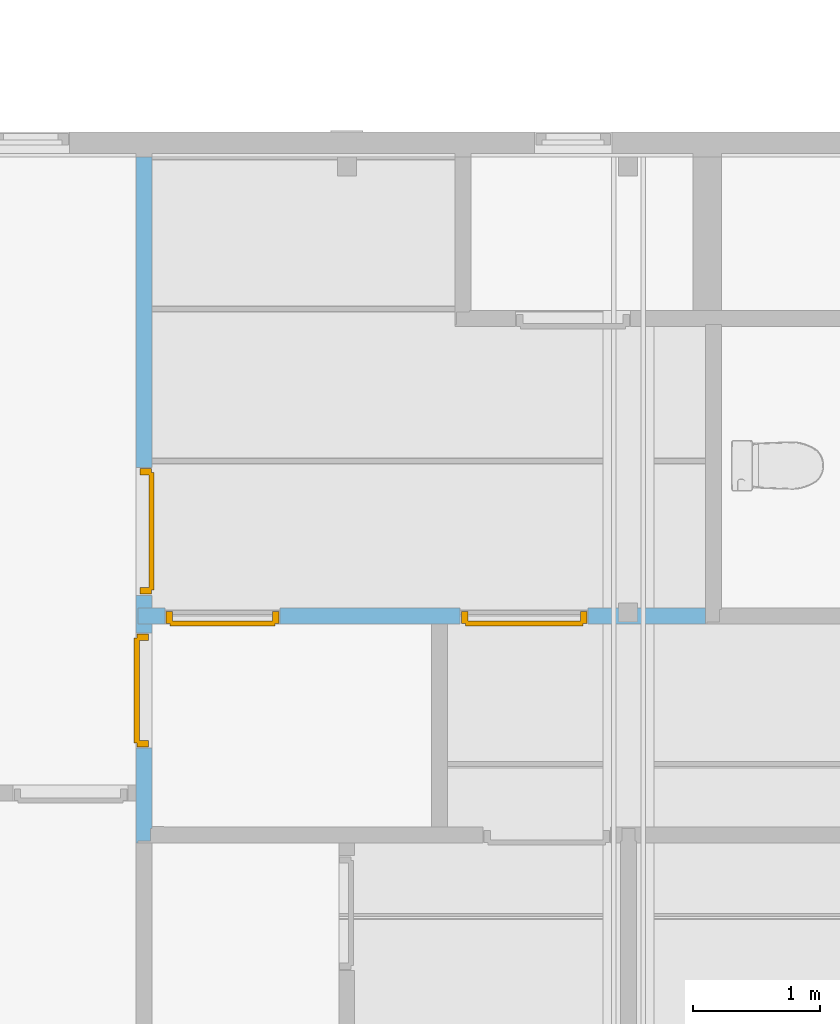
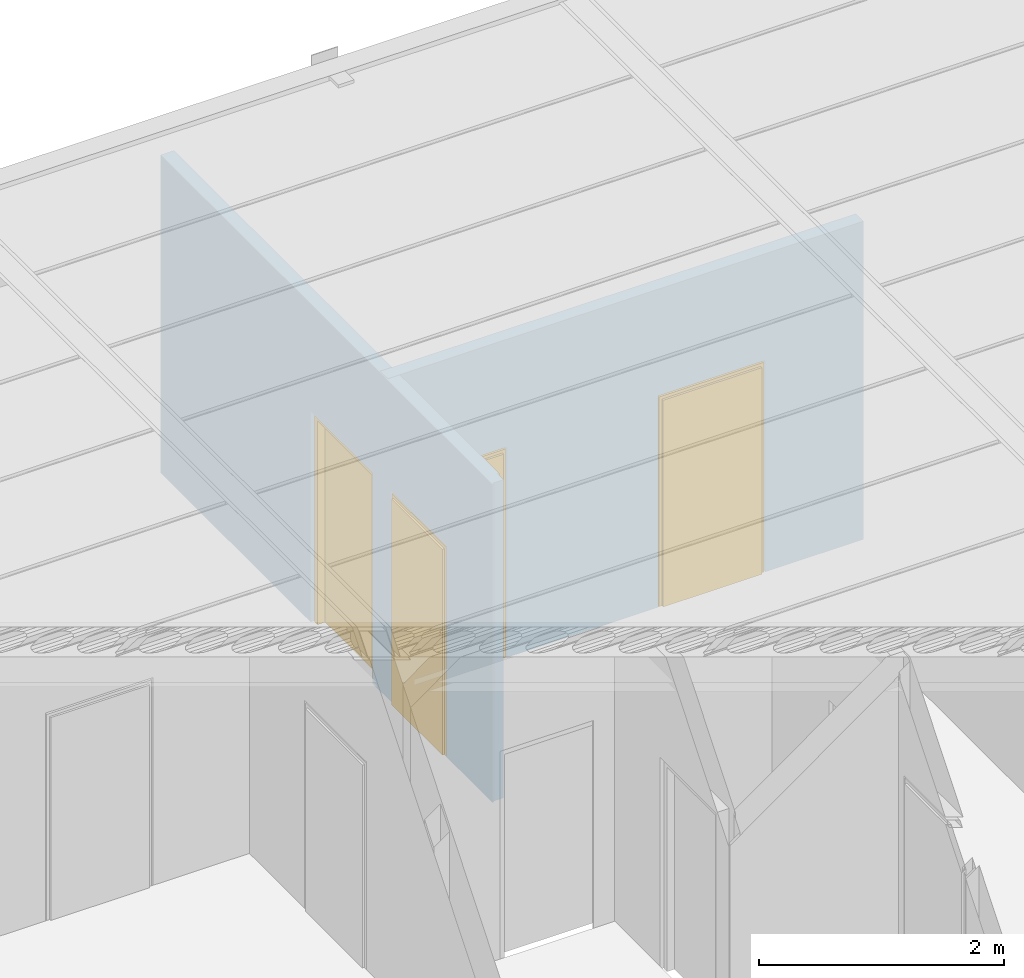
# One storey, part 31 of 45: 4 doors, 4 openings, plus 2 elements that do not belong to this part.
"""IFC2X3 building model written with IfcOpenShell, lengths in millimetres."""

from ifc_helpers import new_model, entity, si_unit, converted_unit, frame, frame_2d, origin, origin_with_axes, place, context, subcontext, project, spatial, polyline, rectangle, outline, extrude, faceted_brep, material, layer, layer_set, layer_usage, type_object, element, fill, save


model = new_model("IFC2X3")

# Units and contexts
model_context = context("Model", 3, precision=1e-05, world=origin())
plan_context = context("Plan", 3, precision=1e-05, world=origin())
body_context = subcontext(model_context, "Body", "Model", "MODEL_VIEW")
ifc_project = project(units=[si_unit("LENGTHUNIT", "METRE", prefix="MILLI"), converted_unit("PLANEANGLEUNIT", "DEGREE", entity("IfcPlaneAngleMeasure", 0.0174532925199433), si_unit("PLANEANGLEUNIT", "RADIAN"), dimensions=[0, 0, 0, 0, 0, 0, 0]), si_unit("AREAUNIT", "SQUARE_METRE"), si_unit("VOLUMEUNIT", "CUBIC_METRE")], contexts=[model_context, plan_context])

# Building, storey
building_placement = place(None, origin())
building = spatial("IfcBuilding", under=ifc_project, at=building_placement, Name="HEKF Administrasjonbygg", CompositionType="ELEMENT")
storey_placement = place(building_placement, frame((0.0, 0.0, 6500.0), z_axis=(0.0, 0.0, 1.0), x_axis=(1.0, 0.0, 0.0)))
storey = spatial("IfcBuildingStorey", under=building, at=storey_placement, Name="Plan 1", CompositionType="ELEMENT", Elevation=6500.0)

# Wall, openings, doors
ifc_material_1 = material(Name="gips")
ifc_layer_1 = layer(ifc_material_1, 13.00000000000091)
ifc_material_2 = material(Name="riegel stål 100")
ifc_layer_2 = layer(ifc_material_2, 100.0)
ifc_material_3 = material(Name="gips")
ifc_layer_3 = layer(ifc_material_3, 13.0)
ifc_layer_set_1 = layer_set([ifc_layer_1, ifc_layer_2, ifc_layer_3])
ifc_layer_usage_1 = layer_usage(ifc_layer_set_1, "AXIS2", "POSITIVE", 0.0)
wall_1_placement = place(storey_placement, frame((18350.0, -3687.0, 0.0), z_axis=(0.0, 0.0, 1.0), x_axis=(1.0, -6.397200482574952e-17, 0.0)))
wall_1 = element("IfcWallStandardCase", 1, at=wall_1_placement, inside=storey, material=ifc_layer_usage_1, context=body_context, shape_type="SweptSolid", body=[
    extrude(outline(polyline([(4482.536806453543, -1.679904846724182e-13), (4482.536806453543, 125.9999999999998), (-8.060472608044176e-15, 125.9999999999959), (0.0, 0.0), (4482.536806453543, -1.679904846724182e-13)])), origin_with_axes(), (0.0, 0.0, 1.0), 3170.0),
])
opening_1_placement = place(wall_1_placement, frame((2546.205884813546, 0.0, 0.0), z_axis=(0.0, 1.0, 0.0), x_axis=(0.0, 0.0, 1.0)))
opening_1 = element("IfcOpeningElement", 2, at=opening_1_placement, cuts=wall_1, Name="Door opening", ObjectType="Opening", context=body_context, shape_type="SweptSolid", body=[
    extrude(rectangle(XDim=2110.0, YDim=1010.0, at=frame_2d((1055.0, 505.0), x_axis=(1.0, 0.0))), origin_with_axes(), (0.0, 0.0, 1.0), 125.9999999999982),
])
opening_2_placement = place(wall_1_placement, frame((213.0, 0.0, 0.0), z_axis=(0.0, 1.0, 0.0), x_axis=(0.0, 0.0, 1.0)))
opening_2 = element("IfcOpeningElement", 3, at=opening_2_placement, cuts=wall_1, Name="D015", ObjectType="Opening", context=body_context, shape_type="SweptSolid", body=[
    extrude(rectangle(XDim=2100.0, YDim=910.0, at=frame_2d((1050.0, 455.0), x_axis=(1.0, 0.0))), origin_with_axes(), (0.0, 0.0, 1.0), 125.9999999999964),
])
ifc_material_4 = material()
door_style_1 = type_object("IfcDoorStyle", Name="D023", ConstructionType="NOTDEFINED", OperationType="USERDEFINED", ParameterTakesPrecedence=False, Sizeable=False)
door_1_placement = place(opening_1_placement, frame((0.0, 0.0, 0.0), z_axis=(1.0, 0.0, 0.0), x_axis=(0.0, 1.0, 0.0)))
door_1 = element("IfcDoor", 4, at=door_1_placement, inside=storey, type_object=door_style_1, material=ifc_material_4, Name="D023", OverallHeight=2110.0, OverallWidth=1010.0, context=body_context, shape_type="Brep", body=[
    faceted_brep([(9.999999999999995, 3.999999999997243, 2090.0), (59.99999999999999, 3.999999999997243, 2090.0), (59.99999999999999, 3.999999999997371, -2.816687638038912e-15), (9.999999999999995, 3.999999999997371, -2.816687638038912e-15), (10.0, 95.99999999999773, 2.816687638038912e-15), (60.0, 95.99999999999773, 2.816687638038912e-15), (60.0, 95.9999999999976, 2090.0), (10.0, 95.9999999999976, 2090.0), (9.999999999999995, 3.999999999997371, -2.816687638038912e-15), (10.0, 95.99999999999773, 2.816687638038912e-15), (10.0, 95.9999999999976, 2090.0), (9.999999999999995, 3.999999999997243, 2090.0), (59.99999999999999, 3.999999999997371, -2.816687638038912e-15), (60.0, 95.99999999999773, 2.816687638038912e-15), (10.0, 95.99999999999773, 2.816687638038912e-15), (9.999999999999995, 3.999999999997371, -2.816687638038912e-15), (59.99999999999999, 3.999999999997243, 2090.0), (60.0, 95.9999999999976, 2090.0), (60.0, 95.99999999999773, 2.816687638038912e-15), (59.99999999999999, 3.999999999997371, -2.816687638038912e-15), (9.999999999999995, 3.999999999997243, 2090.0), (10.0, 95.9999999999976, 2090.0), (60.0, 95.9999999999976, 2090.0), (59.99999999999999, 3.999999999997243, 2090.0)], [[[0, 1, 2, 3]], [[4, 5, 6, 7]], [[8, 9, 10, 11]], [[12, 13, 14, 15]], [[16, 17, 18, 19]], [[20, 21, 22, 23]]], orient=[[False], [False], [False], [False], [False], [False]]),
    faceted_brep([(950.0, 3.999999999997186, 2090.0), (1000.0, 3.999999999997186, 2090.0), (1000.0, 3.999999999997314, -2.816687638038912e-15), (950.0, 3.999999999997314, -2.816687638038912e-15), (950.0, 95.99999999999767, 2.816687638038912e-15), (1000.0, 95.99999999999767, 2.816687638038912e-15), (1000.0, 95.99999999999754, 2090.0), (950.0, 95.99999999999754, 2090.0), (950.0, 3.999999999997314, -2.816687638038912e-15), (950.0, 95.99999999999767, 2.816687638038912e-15), (950.0, 95.99999999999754, 2090.0), (950.0, 3.999999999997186, 2090.0), (1000.0, 3.999999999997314, -2.816687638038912e-15), (1000.0, 95.99999999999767, 2.816687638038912e-15), (950.0, 95.99999999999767, 2.816687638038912e-15), (950.0, 3.999999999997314, -2.816687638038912e-15), (1000.0, 3.999999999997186, 2090.0), (1000.0, 95.99999999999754, 2090.0), (1000.0, 95.99999999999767, 2.816687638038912e-15), (1000.0, 3.999999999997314, -2.816687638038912e-15), (950.0, 3.999999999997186, 2090.0), (950.0, 95.99999999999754, 2090.0), (1000.0, 95.99999999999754, 2090.0), (1000.0, 3.999999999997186, 2090.0)], [[[0, 1, 2, 3]], [[4, 5, 6, 7]], [[8, 9, 10, 11]], [[12, 13, 14, 15]], [[16, 17, 18, 19]], [[20, 21, 22, 23]]], orient=[[False], [False], [False], [False], [False], [False]]),
    faceted_brep([(59.99999999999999, 3.999999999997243, 2090.0), (949.9999999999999, 3.999999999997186, 2090.0), (949.9999999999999, 3.999999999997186, 2040.0), (59.99999999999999, 3.999999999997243, 2040.0), (60.0, 95.9999999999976, 2040.0), (949.9999999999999, 95.99999999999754, 2040.0), (949.9999999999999, 95.99999999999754, 2090.0), (60.0, 95.9999999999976, 2090.0), (59.99999999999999, 3.999999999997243, 2040.0), (60.0, 95.9999999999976, 2040.0), (60.0, 95.9999999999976, 2090.0), (59.99999999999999, 3.999999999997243, 2090.0), (949.9999999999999, 3.999999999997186, 2040.0), (949.9999999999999, 95.99999999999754, 2040.0), (60.0, 95.9999999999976, 2040.0), (59.99999999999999, 3.999999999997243, 2040.0), (949.9999999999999, 3.999999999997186, 2090.0), (949.9999999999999, 95.99999999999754, 2090.0), (949.9999999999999, 95.99999999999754, 2040.0), (949.9999999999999, 3.999999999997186, 2040.0), (59.99999999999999, 3.999999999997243, 2090.0), (60.0, 95.9999999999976, 2090.0), (949.9999999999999, 95.99999999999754, 2090.0), (949.9999999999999, 3.999999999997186, 2090.0)], [[[0, 1, 2, 3]], [[4, 5, 6, 7]], [[8, 9, 10, 11]], [[12, 13, 14, 15]], [[16, 17, 18, 19]], [[20, 21, 22, 23]]], orient=[[False], [False], [False], [False], [False], [False]]),
    faceted_brep([(40.0, -16.00000000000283, 2060.0), (969.9999999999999, -16.00000000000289, 2060.0), (969.9999999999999, -16.00000000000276, -4.041334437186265e-15), (40.0, -16.0000000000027, -4.041334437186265e-15), (40.0, 23.99999999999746, -1.592040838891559e-15), (969.9999999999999, 23.9999999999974, -1.592040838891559e-15), (969.9999999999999, 23.99999999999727, 2060.0), (40.0, 23.99999999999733, 2060.0), (40.0, -16.0000000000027, -4.041334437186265e-15), (40.0, 23.99999999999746, -1.592040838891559e-15), (40.0, 23.99999999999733, 2060.0), (40.0, -16.00000000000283, 2060.0), (969.9999999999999, -16.00000000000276, -4.041334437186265e-15), (969.9999999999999, 23.9999999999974, -1.592040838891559e-15), (40.0, 23.99999999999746, -1.592040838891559e-15), (40.0, -16.0000000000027, -4.041334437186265e-15), (969.9999999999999, -16.00000000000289, 2060.0), (969.9999999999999, 23.99999999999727, 2060.0), (969.9999999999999, 23.9999999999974, -1.592040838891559e-15), (969.9999999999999, -16.00000000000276, -4.041334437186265e-15), (40.0, -16.00000000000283, 2060.0), (40.0, 23.99999999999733, 2060.0), (969.9999999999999, 23.99999999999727, 2060.0), (969.9999999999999, -16.00000000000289, 2060.0)], [[[0, 1, 2, 3]], [[4, 5, 6, 7]], [[8, 9, 10, 11]], [[12, 13, 14, 15]], [[16, 17, 18, 19]], [[20, 21, 22, 23]]], orient=[[False], [False], [False], [False], [False], [False]]),
])
fill(opening_1, door_1)
ifc_material_5 = material()
door_style_2 = type_object("IfcDoorStyle", Name="D022", ConstructionType="NOTDEFINED", OperationType="USERDEFINED", ParameterTakesPrecedence=False, Sizeable=False)
door_2_placement = place(opening_2_placement, frame((0.0, 0.0, 0.0), z_axis=(1.0, 0.0, 0.0), x_axis=(0.0, 1.0, 0.0)))
door_2 = element("IfcDoor", 5, at=door_2_placement, inside=storey, type_object=door_style_2, material=ifc_material_5, Name="D022", OverallHeight=2100.0, OverallWidth=910.0, context=body_context, shape_type="Brep", body=[
    faceted_brep([(9.999999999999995, 3.999999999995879, 2080.0), (59.99999999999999, 3.999999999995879, 2080.0), (59.99999999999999, 3.999999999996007, -2.816687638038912e-15), (9.999999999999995, 3.999999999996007, -2.816687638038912e-15), (10.0, 95.99999999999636, 2.816687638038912e-15), (60.0, 95.99999999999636, 2.816687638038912e-15), (60.0, 95.99999999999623, 2080.0), (10.0, 95.99999999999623, 2080.0), (9.999999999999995, 3.999999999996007, -2.816687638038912e-15), (10.0, 95.99999999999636, 2.816687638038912e-15), (10.0, 95.99999999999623, 2080.0), (9.999999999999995, 3.999999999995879, 2080.0), (59.99999999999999, 3.999999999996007, -2.816687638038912e-15), (60.0, 95.99999999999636, 2.816687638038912e-15), (10.0, 95.99999999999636, 2.816687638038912e-15), (9.999999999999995, 3.999999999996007, -2.816687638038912e-15), (59.99999999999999, 3.999999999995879, 2080.0), (60.0, 95.99999999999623, 2080.0), (60.0, 95.99999999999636, 2.816687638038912e-15), (59.99999999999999, 3.999999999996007, -2.816687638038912e-15), (9.999999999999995, 3.999999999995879, 2080.0), (10.0, 95.99999999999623, 2080.0), (60.0, 95.99999999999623, 2080.0), (59.99999999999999, 3.999999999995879, 2080.0)], [[[0, 1, 2, 3]], [[4, 5, 6, 7]], [[8, 9, 10, 11]], [[12, 13, 14, 15]], [[16, 17, 18, 19]], [[20, 21, 22, 23]]], orient=[[False], [False], [False], [False], [False], [False]]),
    faceted_brep([(850.0, 3.999999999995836, 2080.0), (900.0, 3.999999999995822, 2080.0), (900.0, 3.99999999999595, -2.816687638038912e-15), (850.0, 3.999999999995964, -2.816687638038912e-15), (850.0, 95.9999999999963, 2.816687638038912e-15), (900.0, 95.9999999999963, 2.816687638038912e-15), (900.0, 95.99999999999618, 2080.0), (850.0, 95.99999999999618, 2080.0), (850.0, 3.999999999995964, -2.816687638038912e-15), (850.0, 95.9999999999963, 2.816687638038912e-15), (850.0, 95.99999999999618, 2080.0), (850.0, 3.999999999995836, 2080.0), (900.0, 3.99999999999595, -2.816687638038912e-15), (900.0, 95.9999999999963, 2.816687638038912e-15), (850.0, 95.9999999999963, 2.816687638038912e-15), (850.0, 3.999999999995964, -2.816687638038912e-15), (900.0, 3.999999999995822, 2080.0), (900.0, 95.99999999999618, 2080.0), (900.0, 95.9999999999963, 2.816687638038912e-15), (900.0, 3.99999999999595, -2.816687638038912e-15), (850.0, 3.999999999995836, 2080.0), (850.0, 95.99999999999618, 2080.0), (900.0, 95.99999999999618, 2080.0), (900.0, 3.999999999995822, 2080.0)], [[[0, 1, 2, 3]], [[4, 5, 6, 7]], [[8, 9, 10, 11]], [[12, 13, 14, 15]], [[16, 17, 18, 19]], [[20, 21, 22, 23]]], orient=[[False], [False], [False], [False], [False], [False]]),
    faceted_brep([(59.99999999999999, 3.999999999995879, 2080.0), (849.9999999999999, 3.999999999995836, 2080.0), (849.9999999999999, 3.999999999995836, 2030.0), (59.99999999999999, 3.999999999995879, 2030.0), (60.0, 95.99999999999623, 2030.0), (849.9999999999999, 95.99999999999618, 2030.0), (849.9999999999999, 95.99999999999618, 2080.000000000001), (60.0, 95.99999999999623, 2080.000000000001), (59.99999999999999, 3.999999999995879, 2030.0), (60.0, 95.99999999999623, 2030.0), (60.0, 95.99999999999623, 2080.000000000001), (59.99999999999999, 3.999999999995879, 2080.0), (849.9999999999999, 3.999999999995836, 2030.0), (849.9999999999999, 95.99999999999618, 2030.0), (60.0, 95.99999999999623, 2030.0), (59.99999999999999, 3.999999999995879, 2030.0), (849.9999999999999, 3.999999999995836, 2080.0), (849.9999999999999, 95.99999999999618, 2080.000000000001), (849.9999999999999, 95.99999999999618, 2030.0), (849.9999999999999, 3.999999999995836, 2030.0), (59.99999999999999, 3.999999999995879, 2080.0), (60.0, 95.99999999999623, 2080.000000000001), (849.9999999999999, 95.99999999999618, 2080.000000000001), (849.9999999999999, 3.999999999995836, 2080.0)], [[[0, 1, 2, 3]], [[4, 5, 6, 7]], [[8, 9, 10, 11]], [[12, 13, 14, 15]], [[16, 17, 18, 19]], [[20, 21, 22, 23]]], orient=[[False], [False], [False], [False], [False], [False]]),
    faceted_brep([(40.0, -16.00000000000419, 2050.000000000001), (870.0, -16.00000000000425, 2050.000000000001), (870.0, -16.00000000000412, -4.041334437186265e-15), (40.0, -16.00000000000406, -4.041334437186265e-15), (40.0, 23.99999999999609, -1.592040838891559e-15), (870.0, 23.99999999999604, -1.592040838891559e-15), (870.0, 23.99999999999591, 2050.000000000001), (40.0, 23.99999999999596, 2050.000000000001), (40.0, -16.00000000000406, -4.041334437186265e-15), (40.0, 23.99999999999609, -1.592040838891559e-15), (40.0, 23.99999999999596, 2050.000000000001), (40.0, -16.00000000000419, 2050.000000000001), (870.0, -16.00000000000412, -4.041334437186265e-15), (870.0, 23.99999999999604, -1.592040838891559e-15), (40.0, 23.99999999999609, -1.592040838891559e-15), (40.0, -16.00000000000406, -4.041334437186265e-15), (870.0, -16.00000000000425, 2050.000000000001), (870.0, 23.99999999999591, 2050.000000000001), (870.0, 23.99999999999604, -1.592040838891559e-15), (870.0, -16.00000000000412, -4.041334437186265e-15), (40.0, -16.00000000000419, 2050.000000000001), (40.0, 23.99999999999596, 2050.000000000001), (870.0, 23.99999999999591, 2050.000000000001), (870.0, -16.00000000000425, 2050.000000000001)], [[[0, 1, 2, 3]], [[4, 5, 6, 7]], [[8, 9, 10, 11]], [[12, 13, 14, 15]], [[16, 17, 18, 19]], [[20, 21, 22, 23]]], orient=[[False], [False], [False], [False], [False], [False]]),
])
fill(opening_2, door_2)

ifc_material_6 = material(Name="gips")
ifc_layer_4 = layer(ifc_material_6, 13.0)
ifc_material_7 = material(Name="riegel stål 100")
ifc_layer_5 = layer(ifc_material_7, 100.0)
ifc_material_8 = material(Name="gips")
ifc_layer_6 = layer(ifc_material_8, 13.0)
ifc_layer_set_2 = layer_set([ifc_layer_4, ifc_layer_5, ifc_layer_6])
ifc_layer_usage_2 = layer_usage(ifc_layer_set_2, "AXIS2", "POSITIVE", -13.0)
wall_2_placement = place(storey_placement, frame((18463.0, -5302.674801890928, 0.0), z_axis=(0.0, 0.0, 1.0), x_axis=(0.0, 1.0, 0.0)))
wall_2 = element("IfcWallStandardCase", 6, at=wall_2_placement, inside=storey, material=ifc_layer_usage_2, context=body_context, shape_type="SweptSolid", body=[
    extrude(outline(polyline([(-99.99829331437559, 13.0), (0.007702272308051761, 13.0), (0.0, 0.0), (1615.674801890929, 0.0), (1615.674801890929, 113.0), (1741.674801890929, 113.0), (1741.674801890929, 0.0), (5302.674801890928, 0.0), (5302.674801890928, 126.0), (-114.3251981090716, 126.0), (-114.3251981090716, 113.0), (-99.9454851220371, 113.0), (-99.99829331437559, 13.0)])), origin_with_axes(), (0.0, 0.0, 1.0), 3170.0),
])
opening_3_placement = place(wall_2_placement, frame((634.8975306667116, 0.0, 0.0), z_axis=(0.0, 1.0, 0.0), x_axis=(0.0, 0.0, 1.0)))
opening_3 = element("IfcOpeningElement", 7, at=opening_3_placement, cuts=wall_2, Name="D020", ObjectType="Opening", context=body_context, shape_type="SweptSolid", body=[
    extrude(rectangle(XDim=2100.0, YDim=910.0, at=frame_2d((1050.0, 455.0), x_axis=(1.0, 0.0))), origin_with_axes(), (0.0, 0.0, 1.0), 126.0),
])
opening_4_placement = place(wall_2_placement, frame((1841.674801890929, 0.0, 0.0), z_axis=(0.0, 1.0, 0.0), x_axis=(0.0, 0.0, 1.0)))
opening_4 = element("IfcOpeningElement", 8, at=opening_4_placement, cuts=wall_2, Name="Door opening", ObjectType="Opening", context=body_context, shape_type="SweptSolid", body=[
    extrude(rectangle(XDim=2100.0, YDim=1010.0, at=frame_2d((1050.0, 505.0), x_axis=(1.0, 0.0))), origin_with_axes(), (0.0, 0.0, 1.0), 126.0),
])
ifc_material_9 = material()
door_style_3 = type_object("IfcDoorStyle", Name="D020", ConstructionType="NOTDEFINED", OperationType="USERDEFINED", ParameterTakesPrecedence=False, Sizeable=False)
door_3_placement = place(opening_3_placement, frame((0.0, 0.0, 0.0), z_axis=(1.0, 0.0, 0.0), x_axis=(0.0, 1.0, 0.0)))
door_3 = element("IfcDoor", 9, at=door_3_placement, inside=storey, type_object=door_style_3, material=ifc_material_9, Name="D020", OverallHeight=2100.0, OverallWidth=910.0, context=body_context, shape_type="Brep", body=[
    faceted_brep([(900.0, 122.0000000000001, 2080.0), (850.0, 122.0000000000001, 2080.0), (850.0, 122.0, -2.816687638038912e-15), (900.0, 122.0, -2.816687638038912e-15), (900.0, 30.0, 2.816687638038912e-15), (850.0, 30.0, 2.816687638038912e-15), (850.0, 30.00000000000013, 2080.0), (900.0, 30.00000000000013, 2080.0), (900.0, 122.0, -2.816687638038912e-15), (900.0, 30.0, 2.816687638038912e-15), (900.0, 30.00000000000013, 2080.0), (900.0, 122.0000000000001, 2080.0), (850.0, 122.0, -2.816687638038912e-15), (850.0, 30.0, 2.816687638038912e-15), (900.0, 30.0, 2.816687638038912e-15), (900.0, 122.0, -2.816687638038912e-15), (850.0, 122.0000000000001, 2080.0), (850.0, 30.00000000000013, 2080.0), (850.0, 30.0, 2.816687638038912e-15), (850.0, 122.0, -2.816687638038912e-15), (900.0, 122.0000000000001, 2080.0), (900.0, 30.00000000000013, 2080.0), (850.0, 30.00000000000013, 2080.0), (850.0, 122.0000000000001, 2080.0)], [[[0, 1, 2, 3]], [[4, 5, 6, 7]], [[8, 9, 10, 11]], [[12, 13, 14, 15]], [[16, 17, 18, 19]], [[20, 21, 22, 23]]], orient=[[False], [False], [False], [False], [False], [False]]),
    faceted_brep([(60.0, 122.0000000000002, 2080.0), (10.0, 122.0000000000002, 2080.0), (10.0, 122.0000000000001, -2.816687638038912e-15), (60.0, 122.0000000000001, -2.816687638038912e-15), (60.0, 30.00000000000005, 2.816687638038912e-15), (10.0, 30.00000000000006, 2.816687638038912e-15), (10.0, 30.00000000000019, 2080.0), (60.0, 30.00000000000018, 2080.0), (60.0, 122.0000000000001, -2.816687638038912e-15), (60.0, 30.00000000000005, 2.816687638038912e-15), (60.0, 30.00000000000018, 2080.0), (60.0, 122.0000000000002, 2080.0), (10.0, 122.0000000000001, -2.816687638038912e-15), (10.0, 30.00000000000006, 2.816687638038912e-15), (60.0, 30.00000000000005, 2.816687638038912e-15), (60.0, 122.0000000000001, -2.816687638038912e-15), (10.0, 122.0000000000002, 2080.0), (10.0, 30.00000000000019, 2080.0), (10.0, 30.00000000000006, 2.816687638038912e-15), (10.0, 122.0000000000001, -2.816687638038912e-15), (60.0, 122.0000000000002, 2080.0), (60.0, 30.00000000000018, 2080.0), (10.0, 30.00000000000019, 2080.0), (10.0, 122.0000000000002, 2080.0)], [[[0, 1, 2, 3]], [[4, 5, 6, 7]], [[8, 9, 10, 11]], [[12, 13, 14, 15]], [[16, 17, 18, 19]], [[20, 21, 22, 23]]], orient=[[False], [False], [False], [False], [False], [False]]),
    faceted_brep([(850.0, 122.0000000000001, 2080.0), (60.00000000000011, 122.0000000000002, 2080.0), (60.00000000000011, 122.0000000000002, 2030.0), (850.0, 122.0000000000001, 2030.0), (850.0, 30.00000000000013, 2030.0), (60.00000000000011, 30.00000000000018, 2030.0), (60.00000000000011, 30.00000000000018, 2080.000000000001), (850.0, 30.00000000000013, 2080.000000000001), (850.0, 122.0000000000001, 2030.0), (850.0, 30.00000000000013, 2030.0), (850.0, 30.00000000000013, 2080.000000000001), (850.0, 122.0000000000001, 2080.0), (60.00000000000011, 122.0000000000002, 2030.0), (60.00000000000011, 30.00000000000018, 2030.0), (850.0, 30.00000000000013, 2030.0), (850.0, 122.0000000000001, 2030.0), (60.00000000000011, 122.0000000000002, 2080.0), (60.00000000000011, 30.00000000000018, 2080.000000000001), (60.00000000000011, 30.00000000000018, 2030.0), (60.00000000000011, 122.0000000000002, 2030.0), (850.0, 122.0000000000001, 2080.0), (850.0, 30.00000000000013, 2080.000000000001), (60.00000000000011, 30.00000000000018, 2080.000000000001), (60.00000000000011, 122.0000000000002, 2080.0)], [[[0, 1, 2, 3]], [[4, 5, 6, 7]], [[8, 9, 10, 11]], [[12, 13, 14, 15]], [[16, 17, 18, 19]], [[20, 21, 22, 23]]], orient=[[False], [False], [False], [False], [False], [False]]),
    faceted_brep([(870.0, 142.0000000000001, 2050.000000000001), (40.0, 142.0000000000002, 2050.000000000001), (40.0, 142.0000000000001, -4.041334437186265e-15), (870.0, 142.0, -4.041334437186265e-15), (870.0, 102.0, -1.592040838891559e-15), (40.0, 102.0000000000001, -1.592040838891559e-15), (40.0, 102.0000000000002, 2050.000000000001), (870.0, 102.0000000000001, 2050.000000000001), (870.0, 142.0, -4.041334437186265e-15), (870.0, 102.0, -1.592040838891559e-15), (870.0, 102.0000000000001, 2050.000000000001), (870.0, 142.0000000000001, 2050.000000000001), (40.0, 142.0000000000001, -4.041334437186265e-15), (40.0, 102.0000000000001, -1.592040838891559e-15), (870.0, 102.0, -1.592040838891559e-15), (870.0, 142.0, -4.041334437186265e-15), (40.0, 142.0000000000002, 2050.000000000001), (40.0, 102.0000000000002, 2050.000000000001), (40.0, 102.0000000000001, -1.592040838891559e-15), (40.0, 142.0000000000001, -4.041334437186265e-15), (870.0, 142.0000000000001, 2050.000000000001), (870.0, 102.0000000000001, 2050.000000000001), (40.0, 102.0000000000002, 2050.000000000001), (40.0, 142.0000000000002, 2050.000000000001)], [[[0, 1, 2, 3]], [[4, 5, 6, 7]], [[8, 9, 10, 11]], [[12, 13, 14, 15]], [[16, 17, 18, 19]], [[20, 21, 22, 23]]], orient=[[False], [False], [False], [False], [False], [False]]),
])
fill(opening_3, door_3)
ifc_material_10 = material()
door_style_4 = type_object("IfcDoorStyle", Name="D021", ConstructionType="NOTDEFINED", OperationType="USERDEFINED", ParameterTakesPrecedence=False, Sizeable=False)
door_4_placement = place(opening_4_placement, frame((0.0, 0.0, 0.0), z_axis=(1.0, 0.0, 0.0), x_axis=(0.0, 1.0, 0.0)))
door_4 = element("IfcDoor", 10, at=door_4_placement, inside=storey, type_object=door_style_4, material=ifc_material_10, Name="D021", OverallHeight=2100.0, OverallWidth=1010.0, context=body_context, shape_type="Brep", body=[
    faceted_brep([(9.999999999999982, 3.999999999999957, 2080.0), (59.99999999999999, 3.999999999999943, 2080.0), (59.99999999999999, 4.000000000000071, -2.816687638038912e-15), (9.999999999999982, 4.000000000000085, -2.816687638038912e-15), (10.0, 95.99999999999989, 2.816687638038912e-15), (60.0, 95.99999999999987, 2.816687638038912e-15), (60.0, 95.99999999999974, 2080.0), (10.0, 95.99999999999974, 2080.0), (9.999999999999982, 4.000000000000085, -2.816687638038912e-15), (10.0, 95.99999999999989, 2.816687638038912e-15), (10.0, 95.99999999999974, 2080.0), (9.999999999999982, 3.999999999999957, 2080.0), (59.99999999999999, 4.000000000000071, -2.816687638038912e-15), (60.0, 95.99999999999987, 2.816687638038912e-15), (10.0, 95.99999999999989, 2.816687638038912e-15), (9.999999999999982, 4.000000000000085, -2.816687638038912e-15), (59.99999999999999, 3.999999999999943, 2080.0), (60.0, 95.99999999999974, 2080.0), (60.0, 95.99999999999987, 2.816687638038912e-15), (59.99999999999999, 4.000000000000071, -2.816687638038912e-15), (9.999999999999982, 3.999999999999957, 2080.0), (10.0, 95.99999999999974, 2080.0), (60.0, 95.99999999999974, 2080.0), (59.99999999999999, 3.999999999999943, 2080.0)], [[[0, 1, 2, 3]], [[4, 5, 6, 7]], [[8, 9, 10, 11]], [[12, 13, 14, 15]], [[16, 17, 18, 19]], [[20, 21, 22, 23]]], orient=[[False], [False], [False], [False], [False], [False]]),
    faceted_brep([(950.0, 3.999999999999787, 2080.0), (1000.0, 3.999999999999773, 2080.0), (1000.0, 3.999999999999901, -2.816687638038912e-15), (950.0, 3.999999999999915, -2.816687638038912e-15), (950.0, 95.9999999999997, 2.816687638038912e-15), (1000.0, 95.9999999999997, 2.816687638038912e-15), (1000.0, 95.99999999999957, 2080.0), (950.0, 95.99999999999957, 2080.0), (950.0, 3.999999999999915, -2.816687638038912e-15), (950.0, 95.9999999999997, 2.816687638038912e-15), (950.0, 95.99999999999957, 2080.0), (950.0, 3.999999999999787, 2080.0), (1000.0, 3.999999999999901, -2.816687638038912e-15), (1000.0, 95.9999999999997, 2.816687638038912e-15), (950.0, 95.9999999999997, 2.816687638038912e-15), (950.0, 3.999999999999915, -2.816687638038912e-15), (1000.0, 3.999999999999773, 2080.0), (1000.0, 95.99999999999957, 2080.0), (1000.0, 95.9999999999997, 2.816687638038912e-15), (1000.0, 3.999999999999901, -2.816687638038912e-15), (950.0, 3.999999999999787, 2080.0), (950.0, 95.99999999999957, 2080.0), (1000.0, 95.99999999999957, 2080.0), (1000.0, 3.999999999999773, 2080.0)], [[[0, 1, 2, 3]], [[4, 5, 6, 7]], [[8, 9, 10, 11]], [[12, 13, 14, 15]], [[16, 17, 18, 19]], [[20, 21, 22, 23]]], orient=[[False], [False], [False], [False], [False], [False]]),
    faceted_brep([(59.99999999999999, 3.999999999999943, 2080.0), (949.9999999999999, 3.999999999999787, 2080.0), (949.9999999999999, 3.999999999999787, 2030.0), (59.99999999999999, 3.999999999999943, 2030.0), (60.0, 95.99999999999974, 2030.0), (949.9999999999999, 95.99999999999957, 2030.0), (949.9999999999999, 95.99999999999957, 2080.000000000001), (60.0, 95.99999999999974, 2080.000000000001), (59.99999999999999, 3.999999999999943, 2030.0), (60.0, 95.99999999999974, 2030.0), (60.0, 95.99999999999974, 2080.000000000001), (59.99999999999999, 3.999999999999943, 2080.0), (949.9999999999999, 3.999999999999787, 2030.0), (949.9999999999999, 95.99999999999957, 2030.0), (60.0, 95.99999999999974, 2030.0), (59.99999999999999, 3.999999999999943, 2030.0), (949.9999999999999, 3.999999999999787, 2080.0), (949.9999999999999, 95.99999999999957, 2080.000000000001), (949.9999999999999, 95.99999999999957, 2030.0), (949.9999999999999, 3.999999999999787, 2030.0), (59.99999999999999, 3.999999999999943, 2080.0), (60.0, 95.99999999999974, 2080.000000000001), (949.9999999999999, 95.99999999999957, 2080.000000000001), (949.9999999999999, 3.999999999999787, 2080.0)], [[[0, 1, 2, 3]], [[4, 5, 6, 7]], [[8, 9, 10, 11]], [[12, 13, 14, 15]], [[16, 17, 18, 19]], [[20, 21, 22, 23]]], orient=[[False], [False], [False], [False], [False], [False]]),
    faceted_brep([(39.99999999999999, -16.00000000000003, 2050.000000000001), (969.9999999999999, -16.0000000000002, 2050.000000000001), (969.9999999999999, -16.00000000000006, -4.041334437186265e-15), (39.99999999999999, -15.99999999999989, -4.041334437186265e-15), (39.99999999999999, 24.00000000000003, -1.592040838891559e-15), (969.9999999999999, 23.99999999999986, -1.592040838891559e-15), (969.9999999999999, 23.99999999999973, 2050.000000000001), (39.99999999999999, 23.9999999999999, 2050.000000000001), (39.99999999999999, -15.99999999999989, -4.041334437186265e-15), (39.99999999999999, 24.00000000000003, -1.592040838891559e-15), (39.99999999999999, 23.9999999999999, 2050.000000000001), (39.99999999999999, -16.00000000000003, 2050.000000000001), (969.9999999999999, -16.00000000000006, -4.041334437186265e-15), (969.9999999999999, 23.99999999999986, -1.592040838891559e-15), (39.99999999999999, 24.00000000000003, -1.592040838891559e-15), (39.99999999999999, -15.99999999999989, -4.041334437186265e-15), (969.9999999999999, -16.0000000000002, 2050.000000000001), (969.9999999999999, 23.99999999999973, 2050.000000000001), (969.9999999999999, 23.99999999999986, -1.592040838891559e-15), (969.9999999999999, -16.00000000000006, -4.041334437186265e-15), (39.99999999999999, -16.00000000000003, 2050.000000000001), (39.99999999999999, 23.9999999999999, 2050.000000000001), (969.9999999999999, 23.99999999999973, 2050.000000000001), (969.9999999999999, -16.0000000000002, 2050.000000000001)], [[[0, 1, 2, 3]], [[4, 5, 6, 7]], [[8, 9, 10, 11]], [[12, 13, 14, 15]], [[16, 17, 18, 19]], [[20, 21, 22, 23]]], orient=[[False], [False], [False], [False], [False], [False]]),
])
fill(opening_4, door_4)

save(model, "model.ifc")
